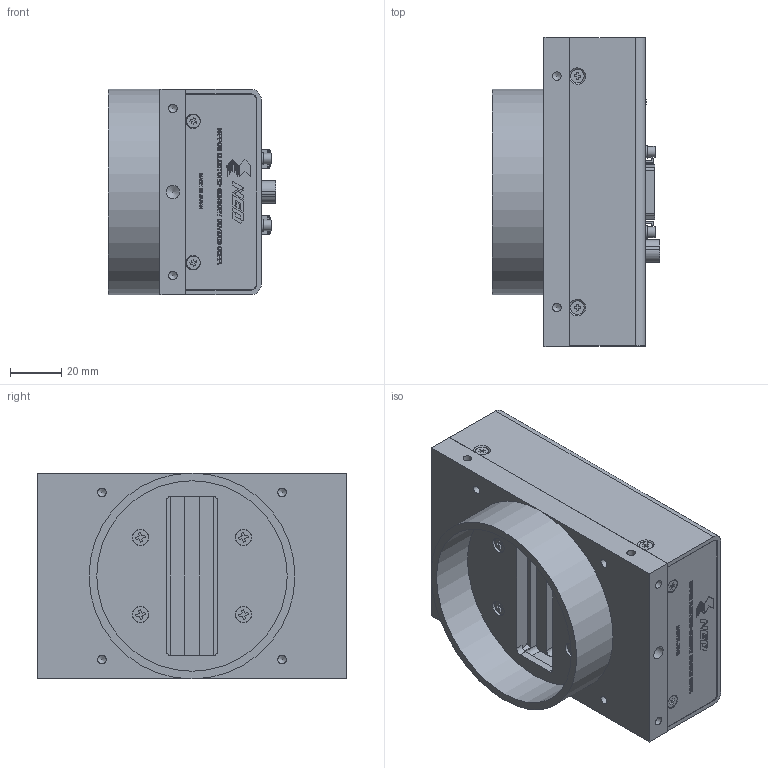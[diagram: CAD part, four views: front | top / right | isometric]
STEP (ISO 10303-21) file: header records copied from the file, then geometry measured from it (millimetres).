
FILE_DESCRIPTION (( 'STEP AP214' ), '1' );
FILE_NAME ('C5-1052-00-42／XCM8085SHT8-V1／外観モデル.STEP', '2017-11-10T02:12:02', ( '' ), ( '' ), 'SwSTEP 2.0', 'SolidWorks 2016', '' );
FILE_SCHEMA (( 'AUTOMOTIVE_DESIGN' ));
Length unit declared in the file: millimetre
Products named in the file (1): C5-1052-00-42／XCM8085SHT8-V1／外観モデル
Bounding box: 64.9 x 120 x 80 mm (x, y, z)
Volume: 173357.8 mm3; surface area: 84686.2 mm2
Topology: 1 solids, 17 shells, 2894 faces, 7766 edges, 5157 vertices
Faces by surface type: plane 1853, bspline 775, cylinder 195, cone 67, torus 4
Full cylindrical faces by diameter (mm): 0.611 x6, 2.05 x16, 2.261 x4, 2.5 x8, 2.6 x4, 2.693 x3, 2.694 x1, 3 x4, 3.2 x5, 3.3 x12, 3.4 x4, 3.5 x1, 4.1 x4, 4.8 x4, 5 x1, 5.105 x1, 5.2 x8, 6 x4, 6.3 x4, 7 x8, 8 x1, 8.85 x1, 11 x1, 11.2 x1, 74 x1, 80 x1
Entity records: 143773 total; most frequent: CARTESIAN_POINT 45622, ORIENTED_EDGE 15010, DIRECTION 10618, EDGE_CURVE 7505, LINE 5512, VECTOR 5512, VERTEX_POINT 5069, EDGE_LOOP 3344
